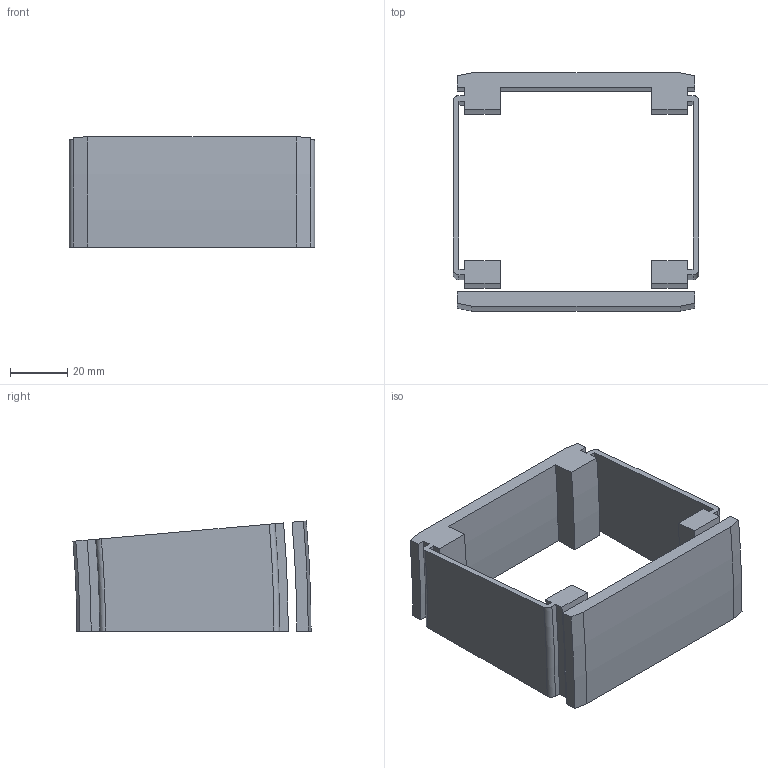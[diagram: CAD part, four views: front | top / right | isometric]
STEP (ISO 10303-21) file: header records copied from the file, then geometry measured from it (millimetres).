
FILE_DESCRIPTION((''),'2;1');
FILE_NAME('C:\Vault Klient\Projekt\Koncept konstruktion\Serie 530 Balk\530-5600_UP.stp','2010-11-23T12:24:56',('Mathias'),(''),'Autodesk Inventor 2011','Autodesk Inventor 2011','');
FILE_SCHEMA(('AUTOMOTIVE_DESIGN { 1 0 10303 214 1 1 1 1 }'));
Length unit declared in the file: millimetre
Products named in the file (1): 530-5600_UP
Bounding box: 86 x 83.37 x 38.57 mm (x, y, z)
Volume: 51925.3 mm3; surface area: 28270.3 mm2
Topology: 2 solids, 2 shells, 87 faces, 234 edges, 156 vertices
Faces by surface type: plane 40, cylinder 25, bspline 14, cone 4, torus 4
Entity records: 3134 total; most frequent: CARTESIAN_POINT 896, ORIENTED_EDGE 468, DIRECTION 428, EDGE_CURVE 234, VERTEX_POINT 156, AXIS2_PLACEMENT_3D 148, VECTOR 132, LINE 132
